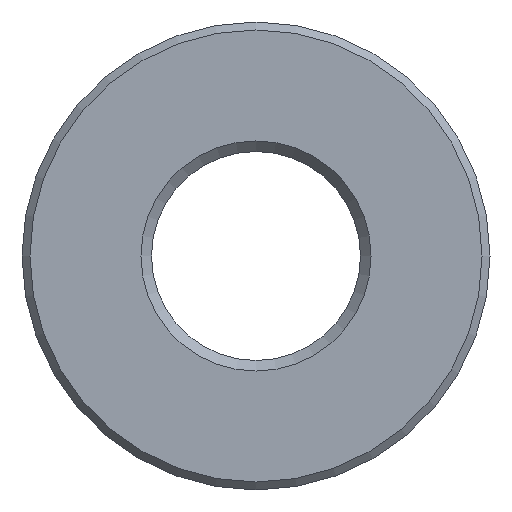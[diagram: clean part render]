
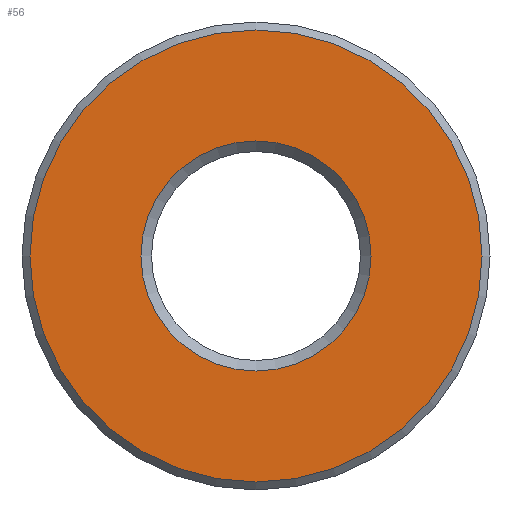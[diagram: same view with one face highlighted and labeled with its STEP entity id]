
A CAD part, left-side view. The second image highlights one B-rep face of the part: STEP entity #56.
In plain terms, the highlighted planar face has unit normal (-1, 0, 0).
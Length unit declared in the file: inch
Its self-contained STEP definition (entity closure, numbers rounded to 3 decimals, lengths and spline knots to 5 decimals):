
#56 = ADVANCED_FACE( '', ( #117, #118 ), #119, .F. );
#117 = FACE_OUTER_BOUND( '', #172, .T. );
#118 = FACE_BOUND( '', #173, .T. );
#119 = PLANE( '', #174 );
#172 = EDGE_LOOP( '', ( #241 ) );
#173 = EDGE_LOOP( '', ( #242 ) );
#174 = AXIS2_PLACEMENT_3D( '', #243, #244, #245 );
#241 = ORIENTED_EDGE( '', *, *, #266, .F. );
#242 = ORIENTED_EDGE( '', *, *, #261, .T. );
#243 = CARTESIAN_POINT( '', ( 0., 0., 0. ) );
#244 = DIRECTION( '', ( 1., 0., 0. ) );
#245 = DIRECTION( '', ( 0., 0., -1. ) );
#261 = EDGE_CURVE( '', #290, #290, #291, .T. );
#266 = EDGE_CURVE( '', #298, #298, #299, .T. );
#290 = VERTEX_POINT( '', #326 );
#291 = CIRCLE( '', #327, 0.21685 );
#298 = VERTEX_POINT( '', #334 );
#299 = CIRCLE( '', #335, 0.42594 );
#326 = CARTESIAN_POINT( '', ( 0., 0., -0.21685 ) );
#327 = AXIS2_PLACEMENT_3D( '', #363, #364, #365 );
#334 = CARTESIAN_POINT( '', ( 0., 0., -0.42594 ) );
#335 = AXIS2_PLACEMENT_3D( '', #372, #373, #374 );
#363 = CARTESIAN_POINT( '', ( 0., 0., 0. ) );
#364 = DIRECTION( '', ( 1., 0., 0. ) );
#365 = DIRECTION( '', ( 0., 0., -1. ) );
#372 = CARTESIAN_POINT( '', ( 0., 0., 0. ) );
#373 = DIRECTION( '', ( 1., 0., 0. ) );
#374 = DIRECTION( '', ( 0., 0., -1. ) );
